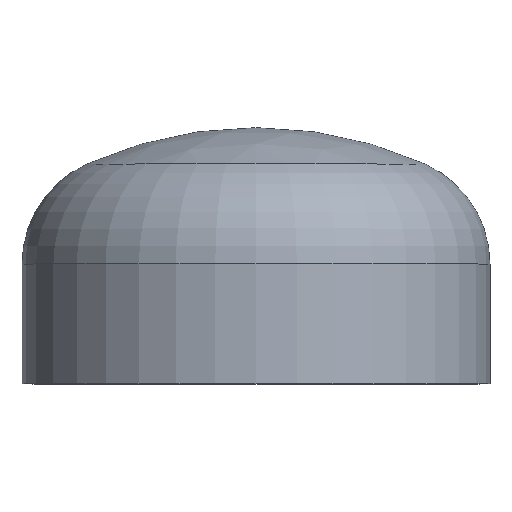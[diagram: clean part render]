
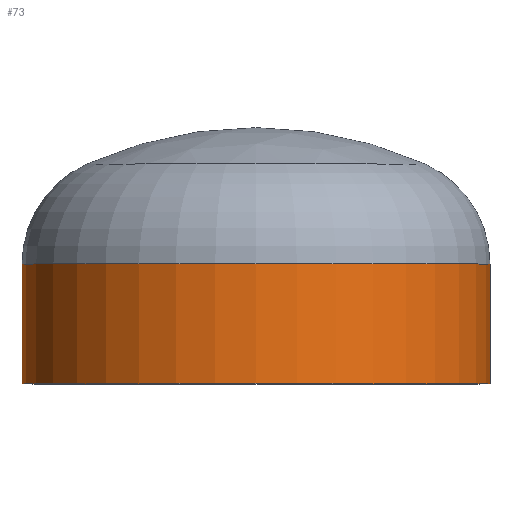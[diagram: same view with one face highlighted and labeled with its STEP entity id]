
A CAD part, top view. The second image highlights one B-rep face of the part: STEP entity #73.
In plain terms, the highlighted cylindrical face has radius 254 mm (diameter 508 mm), a partial arc.
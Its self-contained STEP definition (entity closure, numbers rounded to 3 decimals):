
#19 = VERTEX_POINT ( 'NONE', #258 ) ;
#26 = AXIS2_PLACEMENT_3D ( 'NONE', #143, #181, #151 ) ;
#44 = DIRECTION ( 'NONE',  ( 1., 0., 0. ) ) ;
#46 = AXIS2_PLACEMENT_3D ( 'NONE', #318, #312, #306 ) ;
#50 = EDGE_CURVE ( 'NONE', #19, #255, #246, .T. ) ;
#54 = EDGE_CURVE ( 'NONE', #269, #19, #91, .T. ) ;
#69 = CYLINDRICAL_SURFACE ( 'NONE', #26, 254. ) ;
#73 = ADVANCED_FACE ( 'NONE', ( #378 ), #69, .T. ) ;
#91 = CIRCLE ( 'NONE', #46, 254. ) ;
#97 = CIRCLE ( 'NONE', #173, 254. ) ;
#139 = VERTEX_POINT ( 'NONE', #154 ) ;
#143 = CARTESIAN_POINT ( 'NONE',  ( 0., 0., 0. ) ) ;
#145 = DIRECTION ( 'NONE',  ( 0., -1., 0. ) ) ;
#151 = DIRECTION ( 'NONE',  ( 1., 0., 0. ) ) ;
#154 = CARTESIAN_POINT ( 'NONE',  ( 254., 0., 0. ) ) ;
#173 = AXIS2_PLACEMENT_3D ( 'NONE', #358, #184, #44 ) ;
#180 = LINE ( 'NONE', #288, #323 ) ;
#181 = DIRECTION ( 'NONE',  ( 0., -1., 0. ) ) ;
#184 = DIRECTION ( 'NONE',  ( 0., -1., 0. ) ) ;
#212 = DIRECTION ( 'NONE',  ( 0., -1., 0. ) ) ;
#221 = ORIENTED_EDGE ( 'NONE', *, *, #354, .F. ) ;
#246 = LINE ( 'NONE', #362, #330 ) ;
#255 = VERTEX_POINT ( 'NONE', #393 ) ;
#258 = CARTESIAN_POINT ( 'NONE',  ( -254., 130., 0. ) ) ;
#269 = VERTEX_POINT ( 'NONE', #388 ) ;
#288 = CARTESIAN_POINT ( 'NONE',  ( 254., 0., 0. ) ) ;
#306 = DIRECTION ( 'NONE',  ( 1., 0., 0. ) ) ;
#308 = ORIENTED_EDGE ( 'NONE', *, *, #50, .T. ) ;
#312 = DIRECTION ( 'NONE',  ( 0., -1., 0. ) ) ;
#318 = CARTESIAN_POINT ( 'NONE',  ( 0., 130., 0. ) ) ;
#323 = VECTOR ( 'NONE', #145, 1000. ) ;
#330 = VECTOR ( 'NONE', #212, 1000. ) ;
#354 = EDGE_CURVE ( 'NONE', #269, #139, #180, .T. ) ;
#355 = EDGE_CURVE ( 'NONE', #139, #255, #97, .T. ) ;
#358 = CARTESIAN_POINT ( 'NONE',  ( 0., 0., 0. ) ) ;
#362 = CARTESIAN_POINT ( 'NONE',  ( -254., 0., 0. ) ) ;
#378 = FACE_OUTER_BOUND ( 'NONE', #379, .T. ) ;
#379 = EDGE_LOOP ( 'NONE', ( #411, #308, #387, #221 ) ) ;
#387 = ORIENTED_EDGE ( 'NONE', *, *, #355, .F. ) ;
#388 = CARTESIAN_POINT ( 'NONE',  ( 254., 130., 0. ) ) ;
#393 = CARTESIAN_POINT ( 'NONE',  ( -254., 0., 0. ) ) ;
#411 = ORIENTED_EDGE ( 'NONE', *, *, #54, .T. ) ;
